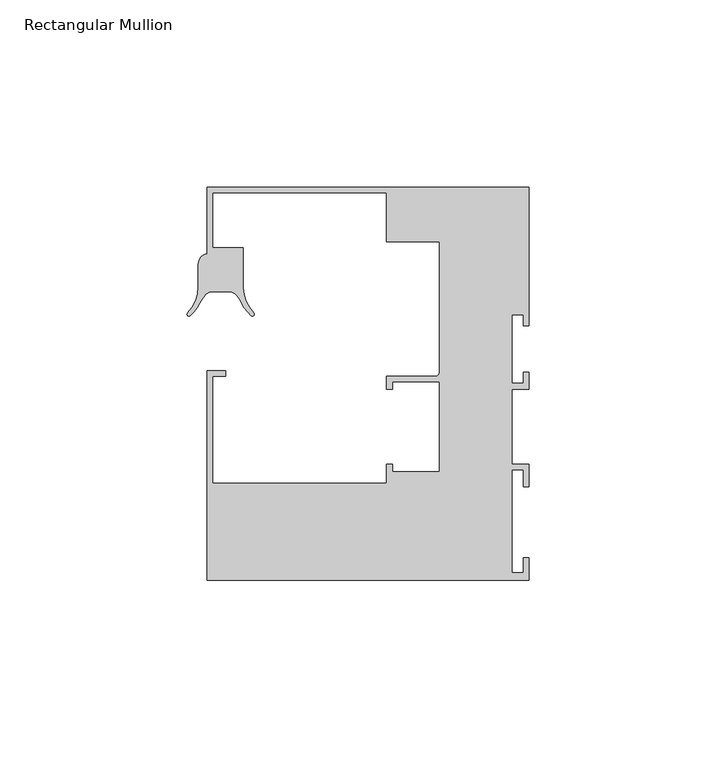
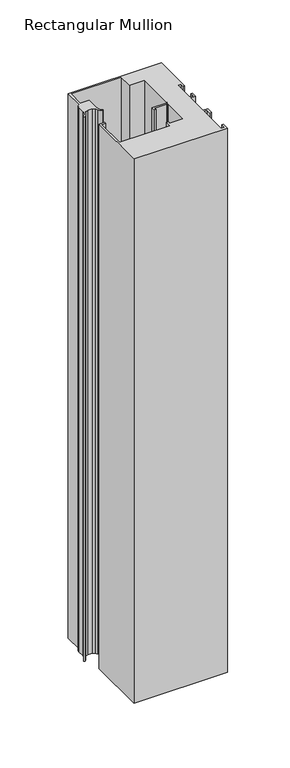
"""IFC4 building model written with IfcOpenShell, lengths in millimetres: member geometry, Rectangular Mullion : Danpal_Airpt_End-Mullion_B1."""

from ifc_helpers import new_model, si_unit, point, frame, frame_2d, origin, place, context, project, spatial, polyline, circle_curve, trimmed, segment, composite_curve, outline, extrude, source, transform, mapped, element, save


def rectangular_mullion_56370f76(model_context):
    return source(origin(), model_context, "Body", "SweptSolid", [
        extrude(outline(composite_curve([segment(polyline([(-84.5, -44.249979), (-38.0, -44.249979), (-38.0, -39.2500001), (-36.4, -39.2500001), (-36.4, -41.2500001), (-23.9180899, -41.2500001), (-23.9180899, -17.2500031), (-36.4180899, -17.2500031), (-36.4180899, -19.2500031), (-38.0180899, -19.2500031), (-38.0180899, -15.7500031), (-24.969716, -15.7500031)]), True, "CONTINUOUS"), segment(trimmed(circle_curve(frame_2d((-24.969716, -14.698377)), 1.0516261), [point((-24.969716, -15.7500031))], [point((-23.9180899, -14.698377))], True, "CARTESIAN"), True, "CONTINUOUS"), segment(polyline([(-23.9180899, -14.698377), (-23.9180899, 20.2499969), (-38.0180899, 20.2499969), (-38.0180899, 33.2499969), (-84.5180945, 33.2499969), (-84.5180945, 18.6499969), (-76.3180945, 18.6499969), (-76.3180945, 7.8643287)]), True, "CONTINUOUS"), segment(trimmed(circle_curve(frame_2d((-66.322244, 8.1523787)), 10.0), [point((-76.3180945, 7.8643287))], [point((-73.5120728, 1.2021009))], True, "CARTESIAN"), True, "CONTINUOUS"), segment(trimmed(circle_curve(frame_2d((-73.8718016, 0.8543575)), 0.5003301), [point((-73.5120728, 1.2021009))], [point((-74.1944462, 0.4719563))], False, "CARTESIAN"), True, "CONTINUOUS"), segment(trimmed(circle_curve(frame_2d((-67.7458114, 8.1149337)), 9.9999997), [point((-74.1944462, 0.4719563))], [point((-76.759944, 3.7853369))], False, "CARTESIAN"), True, "CONTINUOUS"), segment(trimmed(circle_curve(frame_2d((-85.7740768, -0.5442599)), 10.0), [point((-76.759944, 3.7853369))], [point((-77.9898528, 5.7331484))], True, "CARTESIAN"), True, "CONTINUOUS"), segment(trimmed(circle_curve(frame_2d((-80.32512, 3.8499259)), 3.0), [point((-77.9898528, 5.7331484))], [point((-80.32512, 6.8499259))], True, "CARTESIAN"), True, "CONTINUOUS"), segment(polyline([(-80.32512, 6.8499259), (-84.363764, 6.8499259)]), True, "CONTINUOUS"), segment(trimmed(circle_curve(frame_2d((-84.363764, 3.8499259)), 3.0), [point((-84.363764, 6.8499259))], [point((-86.6990305, 5.7331494))], True, "CARTESIAN"), True, "CONTINUOUS"), segment(trimmed(circle_curve(frame_2d((-78.9148092, -0.544262)), 9.9999997), [point((-86.6990305, 5.7331494))], [point((-87.9289412, 3.785336))], True, "CARTESIAN"), True, "CONTINUOUS"), segment(trimmed(circle_curve(frame_2d((-96.9430732, 8.114934)), 9.9999998), [point((-87.9289412, 3.785336))], [point((-90.4970116, 0.4697862))], False, "CARTESIAN"), True, "CONTINUOUS"), segment(trimmed(circle_curve(frame_2d((-90.8194227, 0.8521716)), 0.5001675), [point((-90.4970116, 0.4697862))], [point((-91.1789286, 1.1999114))], False, "CARTESIAN"), True, "CONTINUOUS"), segment(trimmed(circle_curve(frame_2d((-98.3666403, 8.1523787)), 10.0), [point((-91.1789286, 1.1999114))], [point((-88.3666989, 8.1181379))], True, "CARTESIAN"), True, "CONTINUOUS"), segment(polyline([(-88.3666989, 8.1181379), (-88.3666989, 14.1183419)]), True, "CONTINUOUS"), segment(trimmed(circle_curve(frame_2d((-85.366716, 14.1081309)), 3.0000002), [point((-88.3666989, 14.1183419))], [point((-86.0180914, 17.0365625))], False, "CARTESIAN"), True, "CONTINUOUS"), segment(polyline([(-86.0180914, 17.0365625), (-86.0180914, 34.75), (-0.0180922, 34.75), (-0.0180922, -2.25), (-1.5180922, -2.25), (-1.5180922, 0.75), (-4.5180922, 0.75), (-4.5180922, -17.65), (-1.5180922, -17.65), (-1.5180922, -14.65), (-0.0180922, -14.65), (-0.0180922, -19.25), (-4.5, -19.25), (-4.5, -39.2500001), (-0.0180937, -39.2500001), (-0.0180937, -45.2500001), (-1.5180937, -45.2500001), (-1.5180937, -40.7500001), (-4.5, -40.7500001), (-4.5, -68.2500001), (-1.5, -68.2500001), (-1.5, -64.2500001), (0.0, -64.2500001), (0.0, -70.2500001), (-86.0, -70.2500001), (-86.0, -14.2500001), (-81.0, -14.2500001), (-81.0, -15.7500001), (-84.5, -15.7500001), (-84.5, -44.249979)]), True, "CONTINUOUS")], self_intersect=False)), frame((0.0, 0.0, -530.2), z_axis=(0.0, 0.0, 1.0), x_axis=(1.0, 0.0, 0.0)), (0.0, 0.0, 1.0), 530.2),
    ])


if __name__ == "__main__":
    model = new_model("IFC4")
    model_context = context("Model", 3, world=origin())
    ifc_project = project(units=[si_unit("LENGTHUNIT", "METRE", prefix="MILLI")], contexts=[model_context])
    site = spatial("IfcSite", under=ifc_project)
    building = spatial("IfcBuilding", under=site)
    placement = place(None, origin())
    rectangular_mullion_shape = rectangular_mullion_56370f76(model_context)
    element("IfcMember", 1, ObjectType="Rectangular Mullion : Danpal_Airpt_End-Mullion_B1", at=placement, inside=building, context=model_context, shape_type="MappedRepresentation", body=[
        mapped(rectangular_mullion_shape, transform((0.0, 0.0, 0.0), x_axis=(1.0, 0.0, 0.0), y_axis=(0.0, 1.0, 0.0), z_axis=(0.0, 0.0, 1.0))),
    ])
    save(model, "model.ifc")
